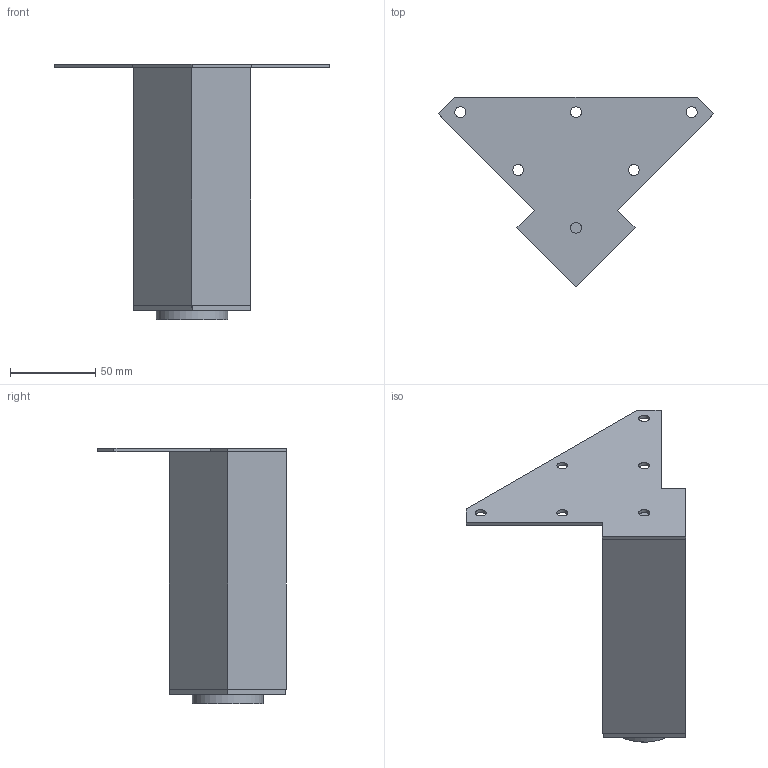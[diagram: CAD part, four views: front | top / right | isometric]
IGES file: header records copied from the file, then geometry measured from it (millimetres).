
Start section: Data from Parasolid IGES Translator 20.0.26, Copyright(c) 2006 Siemens P LM Software. All Rights Reserved.
Global section: file name: 9206866.igs; native system: By Siemens PLM Incorporated; preprocessor: XPlus GENERIC/IGES 20.0.26; author: Noname; organization: Noname; date: 20210125.173604; units: millimetre
Bounding box: 161.93 x 111.37 x 150 mm (x, y, z)
Surface area: 47796.7 mm2 (no closed solid volume)
Topology: 0 solids, 0 shells, 30 faces, 144 edges, 138 vertices
Faces by surface type: extrusion 23, revolution 7
